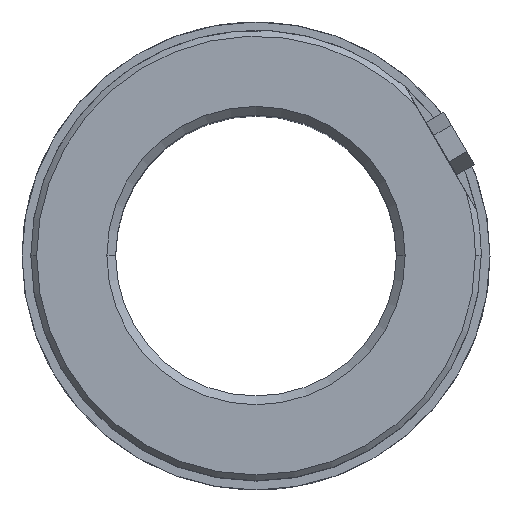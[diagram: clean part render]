
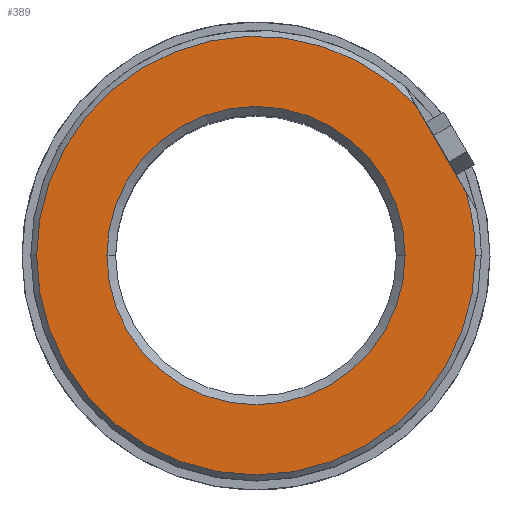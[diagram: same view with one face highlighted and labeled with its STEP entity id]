
A CAD part, top view. The second image highlights one B-rep face of the part: STEP entity #389.
In plain terms, the highlighted planar face has unit normal (0, 0, 1).
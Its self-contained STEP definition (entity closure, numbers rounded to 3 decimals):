
#262=CARTESIAN_POINT('Axis2P3D Location',(0.,0.,50.)) ;
#266=CARTESIAN_POINT('Vertex',(25.5,0.,50.)) ;
#268=CARTESIAN_POINT('Vertex',(-25.5,0.,50.)) ;
#341=CARTESIAN_POINT('Axis2P3D Location',(25.5,0.,50.)) ;
#346=CARTESIAN_POINT('Line Origine',(31.61,18.25,50.)) ;
#350=CARTESIAN_POINT('Vertex',(35.911,10.8,50.)) ;
#352=CARTESIAN_POINT('Vertex',(27.309,25.7,50.)) ;
#355=CARTESIAN_POINT('Axis2P3D Location',(0.,0.,50.)) ;
#359=CARTESIAN_POINT('Vertex',(-37.5,0.,50.)) ;
#362=CARTESIAN_POINT('Axis2P3D Location',(0.,0.,50.)) ;
#366=CARTESIAN_POINT('Vertex',(37.5,0.,50.)) ;
#369=CARTESIAN_POINT('Axis2P3D Location',(0.,0.,50.)) ;
#380=CARTESIAN_POINT('Axis2P3D Location',(0.,0.,50.)) ;
#263=DIRECTION('Axis2P3D Direction',(0.,-0.,1.)) ;
#342=DIRECTION('Axis2P3D Direction',(0.,-0.,1.)) ;
#343=DIRECTION('Axis2P3D XDirection',(1.,0.,0.)) ;
#347=DIRECTION('Vector Direction',(-0.5,0.866,0.)) ;
#356=DIRECTION('Axis2P3D Direction',(0.,-0.,1.)) ;
#363=DIRECTION('Axis2P3D Direction',(0.,-0.,1.)) ;
#370=DIRECTION('Axis2P3D Direction',(0.,-0.,1.)) ;
#381=DIRECTION('Axis2P3D Direction',(0.,-0.,1.)) ;
#264=AXIS2_PLACEMENT_3D('Circle Axis2P3D',#262,#263,$) ;
#344=AXIS2_PLACEMENT_3D('Plane Axis2P3D',#341,#342,#343) ;
#357=AXIS2_PLACEMENT_3D('Circle Axis2P3D',#355,#356,$) ;
#364=AXIS2_PLACEMENT_3D('Circle Axis2P3D',#362,#363,$) ;
#371=AXIS2_PLACEMENT_3D('Circle Axis2P3D',#369,#370,$) ;
#382=AXIS2_PLACEMENT_3D('Circle Axis2P3D',#380,#381,$) ;
#375=ORIENTED_EDGE('',*,*,#354,.T.) ;
#376=ORIENTED_EDGE('',*,*,#361,.T.) ;
#377=ORIENTED_EDGE('',*,*,#368,.T.) ;
#378=ORIENTED_EDGE('',*,*,#373,.T.) ;
#386=ORIENTED_EDGE('',*,*,#384,.F.) ;
#387=ORIENTED_EDGE('',*,*,#270,.F.) ;
#388=FACE_BOUND('',#385,.T.) ;
#348=VECTOR('Line Direction',#347,1.) ;
#389=ADVANCED_FACE('741-48',(#379,#388),#345,.T.) ;
#265=CIRCLE('generated circle',#264,25.5) ;
#358=CIRCLE('generated circle',#357,37.5) ;
#365=CIRCLE('generated circle',#364,37.5) ;
#372=CIRCLE('generated circle',#371,37.5) ;
#383=CIRCLE('generated circle',#382,25.5) ;
#270=EDGE_CURVE('',#267,#269,#265,.T.) ;
#354=EDGE_CURVE('',#351,#353,#349,.T.) ;
#361=EDGE_CURVE('',#353,#360,#358,.T.) ;
#368=EDGE_CURVE('',#360,#367,#365,.T.) ;
#373=EDGE_CURVE('',#367,#351,#372,.T.) ;
#384=EDGE_CURVE('',#269,#267,#383,.T.) ;
#374=EDGE_LOOP('',(#375,#376,#377,#378)) ;
#385=EDGE_LOOP('',(#386,#387)) ;
#379=FACE_OUTER_BOUND('',#374,.T.) ;
#349=LINE('Line',#346,#348) ;
#345=PLANE('Plane',#344) ;
#267=VERTEX_POINT('',#266) ;
#269=VERTEX_POINT('',#268) ;
#351=VERTEX_POINT('',#350) ;
#353=VERTEX_POINT('',#352) ;
#360=VERTEX_POINT('',#359) ;
#367=VERTEX_POINT('',#366) ;
